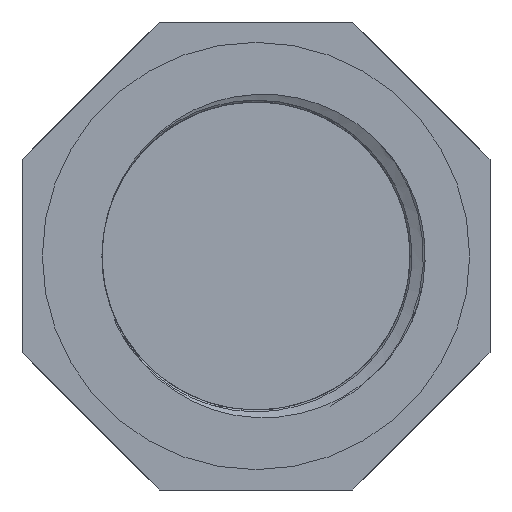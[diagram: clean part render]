
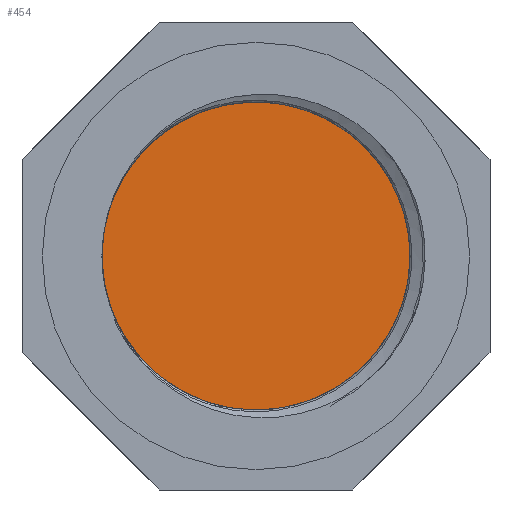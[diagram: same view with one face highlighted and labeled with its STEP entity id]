
A CAD part, front view. The second image highlights one B-rep face of the part: STEP entity #454.
In plain terms, the highlighted planar face has unit normal (0, -1, 0).
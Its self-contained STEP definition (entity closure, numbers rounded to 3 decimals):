
#26=PLANE('',#485);
#123=FACE_OUTER_BOUND('',#154,.T.);
#154=EDGE_LOOP('',(#344));
#184=CIRCLE('',#484,15.146);
#220=VERTEX_POINT('',#3701);
#267=EDGE_CURVE('',#220,#220,#184,.T.);
#344=ORIENTED_EDGE('',*,*,#267,.F.);
#454=ADVANCED_FACE('',(#123),#26,.F.);
#484=AXIS2_PLACEMENT_3D('',#3702,#535,#536);
#485=AXIS2_PLACEMENT_3D('',#3703,#537,#538);
#535=DIRECTION('center_axis',(0.,1.,0.));
#536=DIRECTION('ref_axis',(-1.,0.,0.));
#537=DIRECTION('center_axis',(0.,1.,0.));
#538=DIRECTION('ref_axis',(0.,0.,1.));
#3701=CARTESIAN_POINT('',(15.146,24.,0.));
#3702=CARTESIAN_POINT('Origin',(0.,24.,0.));
#3703=CARTESIAN_POINT('Origin',(0.,24.,0.));
